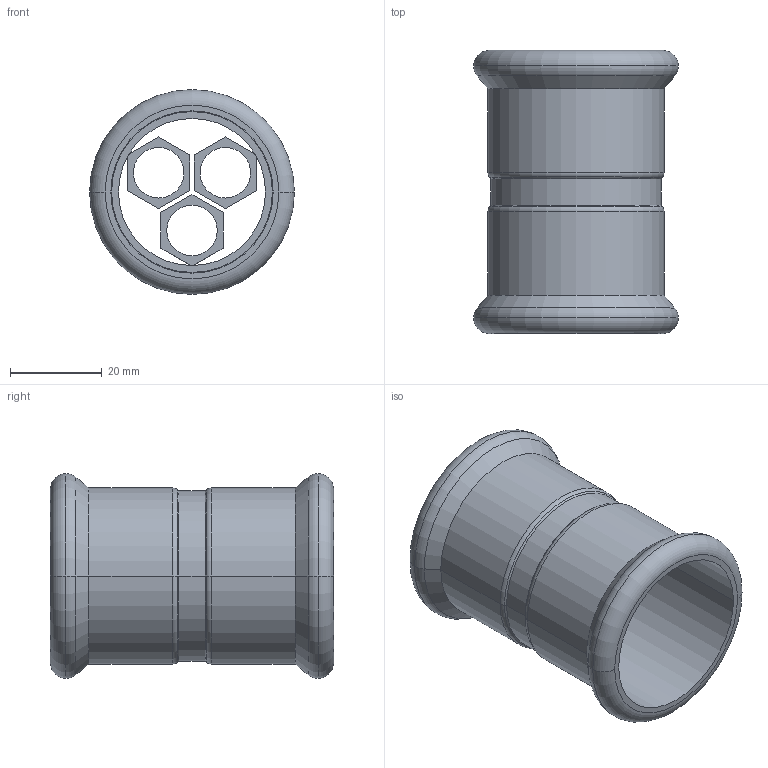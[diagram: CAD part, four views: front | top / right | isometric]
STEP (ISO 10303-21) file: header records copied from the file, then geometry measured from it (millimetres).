
FILE_DESCRIPTION(('OneSpaceDesigner STEP Export'),'2;1');
FILE_NAME('R2701 35x35.stp','2010-06-08T13:11:59',(''),(''),'OneSpace Designer STEP processor for AP214 (Solid Model)','OneSpace Modeling 15.00A 14-Mar-2007 (C) CoCreate Software GmbH','');
FILE_SCHEMA(('AUTOMOTIVE_DESIGN { 1 0 10303 214 1 1 1 1 }'));
Length unit declared in the file: millimetre
Products named in the file (2): R2701_35x35
Assembly tree (1 placements, depth 2):
  R2701_35x35
    R2701_35x35
Bounding box: 44.55 x 61.6 x 44.55 mm (x, y, z)
Volume: 17286.3 mm3; surface area: 17953.2 mm2
Topology: 1 solids, 1 shells, 114 faces, 282 edges, 180 vertices
Faces by surface type: plane 60, cylinder 34, torus 12, cone 8
Entity records: 3015 total; most frequent: ORIENTED_EDGE 564, CARTESIAN_POINT 490, DIRECTION 446, EDGE_CURVE 282, VERTEX_POINT 180, VECTOR 174, LINE 174, EDGE_LOOP 138
